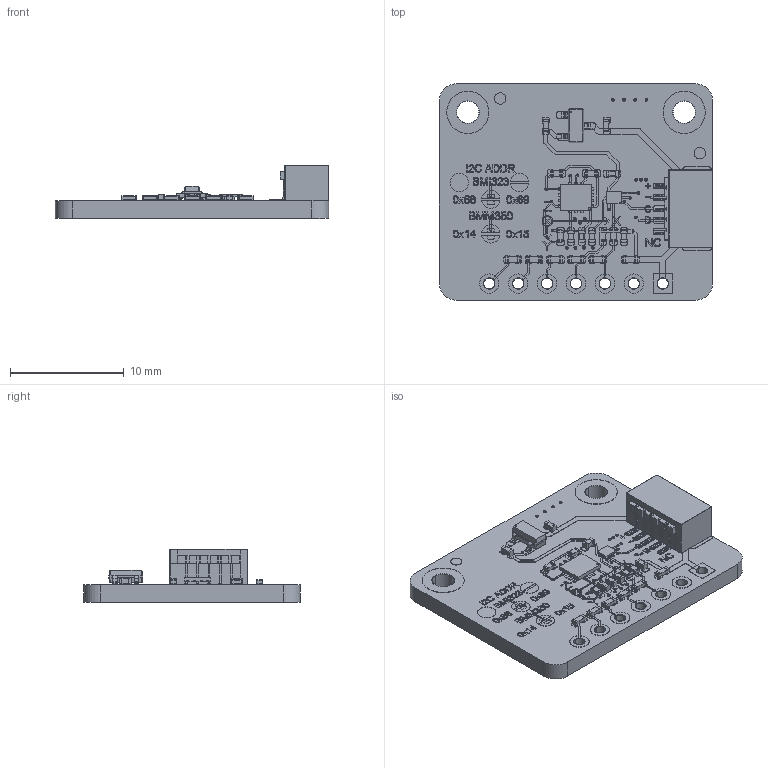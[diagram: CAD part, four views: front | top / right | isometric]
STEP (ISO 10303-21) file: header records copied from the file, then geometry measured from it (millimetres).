
FILE_DESCRIPTION(/* description */ (''),/* implementation_level */ '2;1');
FILE_NAME(/* name */ 'SEN0695',/* time_stamp */ '2026-03-20T13:48:47+08:00',/* author */ (''),/* organization */ (''),/* preprocessor_version */ 'ST-DEVELOPER v19.2',/* originating_system */ 'Rhino 8.0',/* authorisation */ '');
FILE_SCHEMA (('CONFIG_CONTROL_DESIGN'));
Products named in the file (1): Document
Bounding box: 24 x 19 x 4.74 mm (x, y, z)
Volume: 689 mm3; surface area: 1837.1 mm2
Topology: 341 solids, 342 shells, 3994 faces, 9686 edges, 6395 vertices
Faces by surface type: plane 2708, cylinder 983, bspline 303
Entity records: 124147 total; most frequent: CARTESIAN_POINT 46451, ORIENTED_EDGE 19354, EDGE_CURVE 9686, B_SPLINE_CURVE_WITH_KNOTS 7502, DIRECTION 7484, VERTEX_POINT 6395, AXIS2_PLACEMENT_3D 5578, EDGE_LOOP 4313
